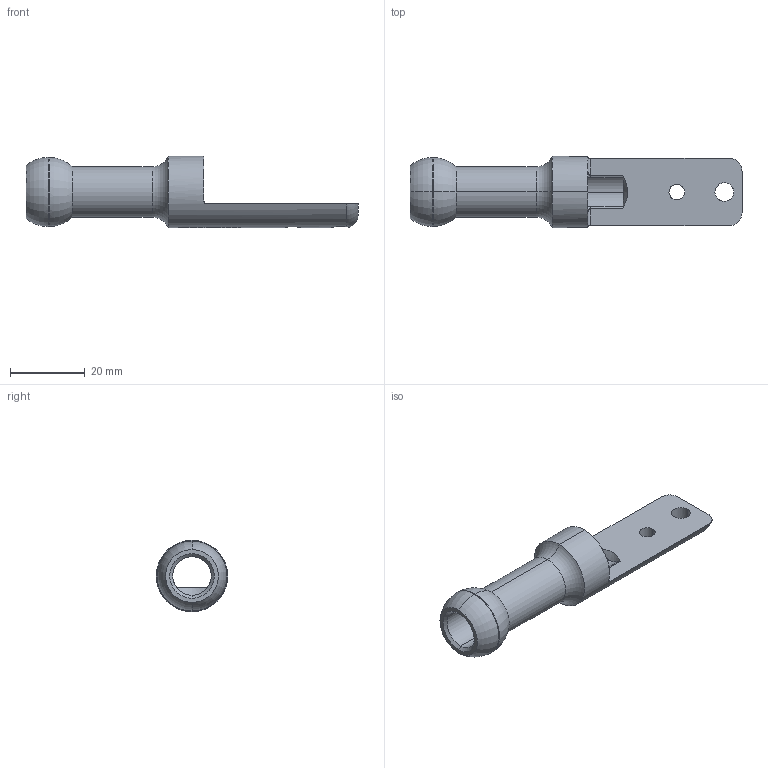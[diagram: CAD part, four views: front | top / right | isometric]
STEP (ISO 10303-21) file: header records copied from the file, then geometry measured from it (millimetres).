
FILE_DESCRIPTION (( 'STEP AP214' ), '1' );
FILE_NAME ('SLM-SBH-XS.STEP', '2018-12-05T19:39:25', ( '' ), ( '' ), 'SwSTEP 2.0', 'SolidWorks 2018', '' );
FILE_SCHEMA (( 'AUTOMOTIVE_DESIGN' ));
Length unit declared in the file: inch
Products named in the file (2): SLM-SBH-XS
Bounding box: 88.9 x 19.05 x 19.05 mm (x, y, z)
Volume: 8461.7 mm3; surface area: 6072.6 mm2
Topology: 1 solids, 1 shells, 114 faces, 1183 edges, 1122 vertices
Faces by surface type: cylinder 93, plane 8, torus 7, cone 4, bspline 2
Entity records: 13639 total; most frequent: CARTESIAN_POINT 5543, ORIENTED_EDGE 2366, EDGE_CURVE 1183, VERTEX_POINT 1122, DIRECTION 970, B_SPLINE_CURVE_WITH_KNOTS 676, AXIS2_PLACEMENT_3D 349, LINE 272
